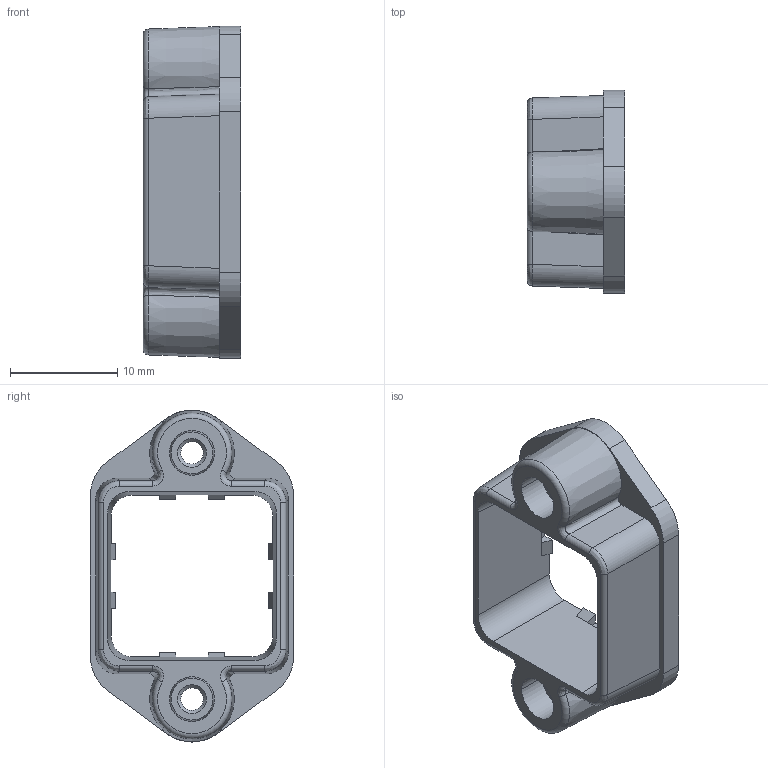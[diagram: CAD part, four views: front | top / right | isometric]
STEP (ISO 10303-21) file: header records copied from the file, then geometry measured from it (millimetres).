
FILE_DESCRIPTION((''),'2;1');
FILE_NAME('Z-3-SF-INT_SW0002','2013-11-15T',('ulf'),(''),'PRO/ENGINEER BY PARAMETRIC TECHNOLOGY CORPORATION, 2013230','PRO/ENGINEER BY PARAMETRIC TECHNOLOGY CORPORATION, 2013230','');
FILE_SCHEMA(('AUTOMOTIVE_DESIGN { 1 0 10303 214 1 1 1 1 }'));
Length unit declared in the file: millimetre
Products named in the file (1): Z-3-SF-INT_SW0002
Bounding box: 9.1 x 19 x 31 mm (x, y, z)
Volume: 1521.7 mm3; surface area: 1990.2 mm2
Topology: 1 solids, 1 shells, 123 faces, 312 edges, 196 vertices
Faces by surface type: plane 55, cylinder 32, cone 22, bspline 12, torus 2
Entity records: 5693 total; most frequent: CARTESIAN_POINT 1692, ORIENTED_EDGE 624, DIRECTION 580, EDGE_CURVE 312, AXIS2_PLACEMENT_3D 197, VERTEX_POINT 196, VECTOR 186, LINE 186
